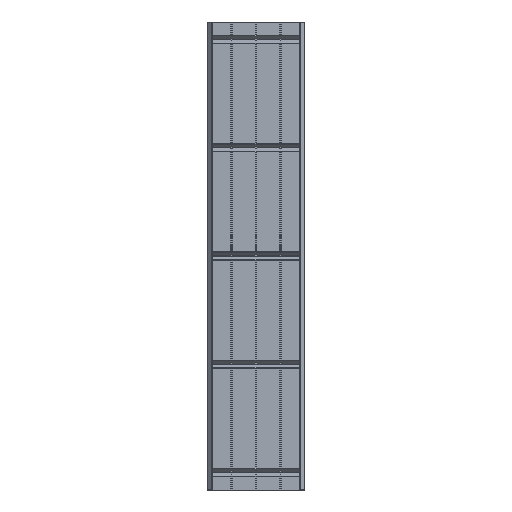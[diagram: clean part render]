
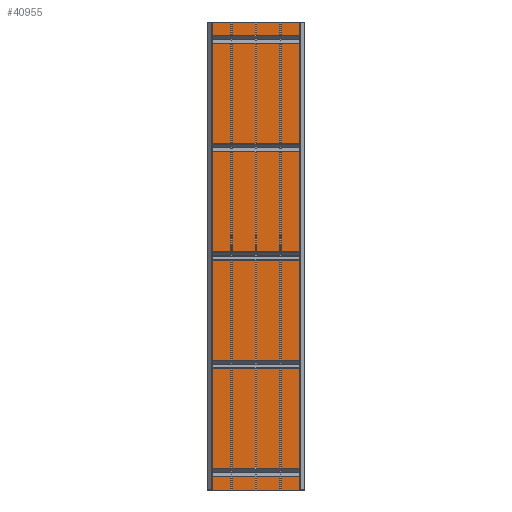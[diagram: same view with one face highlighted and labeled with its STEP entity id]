
A CAD part, front view. The second image highlights one B-rep face of the part: STEP entity #40955.
In plain terms, the highlighted planar face has unit normal (0, -1, 0).
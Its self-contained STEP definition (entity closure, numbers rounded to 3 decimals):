
#685 = DIRECTION ( 'NONE',  ( 0., 0., 1. ) ) ;
#793 = DIRECTION ( 'NONE',  ( 0., 0., 1. ) ) ;
#1223 = LINE ( 'NONE', #14372, #2514 ) ;
#2389 = VERTEX_POINT ( 'NONE', #53899 ) ;
#2514 = VECTOR ( 'NONE', #685, 1000. ) ;
#2852 = EDGE_CURVE ( 'NONE', #2389, #9998, #40814, .T. ) ;
#4957 = LINE ( 'NONE', #9975, #34446 ) ;
#6332 = CARTESIAN_POINT ( 'NONE',  ( -304.8, -68.75, 3010. ) ) ;
#9975 = CARTESIAN_POINT ( 'NONE',  ( -304.8, -68.75, 20. ) ) ;
#9998 = VERTEX_POINT ( 'NONE', #27415 ) ;
#10245 = CARTESIAN_POINT ( 'NONE',  ( -304.8, -68.75, 20. ) ) ;
#10527 = DIRECTION ( 'NONE',  ( 1., 0., 0. ) ) ;
#11890 = AXIS2_PLACEMENT_3D ( 'NONE', #31804, #37156, #48955 ) ;
#14372 = CARTESIAN_POINT ( 'NONE',  ( 304.8, -68.75, 20. ) ) ;
#16757 = ORIENTED_EDGE ( 'NONE', *, *, #46712, .T. ) ;
#17699 = EDGE_LOOP ( 'NONE', ( #16757, #54190, #40144, #20136 ) ) ;
#20136 = ORIENTED_EDGE ( 'NONE', *, *, #52615, .T. ) ;
#27415 = CARTESIAN_POINT ( 'NONE',  ( 304.8, -68.75, 3010. ) ) ;
#28137 = PLANE ( 'NONE',  #11890 ) ;
#30432 = DIRECTION ( 'NONE',  ( 1., 0., 0. ) ) ;
#30475 = VERTEX_POINT ( 'NONE', #35565 ) ;
#31804 = CARTESIAN_POINT ( 'NONE',  ( -304.8, -68.75, 20. ) ) ;
#34438 = CARTESIAN_POINT ( 'NONE',  ( -304.8, -68.75, 20. ) ) ;
#34446 = VECTOR ( 'NONE', #30432, 1000. ) ;
#34952 = VECTOR ( 'NONE', #10527, 1000. ) ;
#35565 = CARTESIAN_POINT ( 'NONE',  ( 304.8, -68.75, 20. ) ) ;
#37156 = DIRECTION ( 'NONE',  ( 0., -1., 0. ) ) ;
#40144 = ORIENTED_EDGE ( 'NONE', *, *, #49052, .F. ) ;
#40814 = LINE ( 'NONE', #6332, #34952 ) ;
#40955 = ADVANCED_FACE ( 'NONE', ( #49526 ), #28137, .T. ) ;
#43428 = VECTOR ( 'NONE', #793, 1000. ) ;
#46369 = VERTEX_POINT ( 'NONE', #10245 ) ;
#46712 = EDGE_CURVE ( 'NONE', #30475, #9998, #1223, .T. ) ;
#48175 = LINE ( 'NONE', #34438, #43428 ) ;
#48955 = DIRECTION ( 'NONE',  ( 0., 0., -1. ) ) ;
#49052 = EDGE_CURVE ( 'NONE', #46369, #2389, #48175, .T. ) ;
#49526 = FACE_OUTER_BOUND ( 'NONE', #17699, .T. ) ;
#52615 = EDGE_CURVE ( 'NONE', #46369, #30475, #4957, .T. ) ;
#53899 = CARTESIAN_POINT ( 'NONE',  ( -304.8, -68.75, 3010. ) ) ;
#54190 = ORIENTED_EDGE ( 'NONE', *, *, #2852, .F. ) ;
